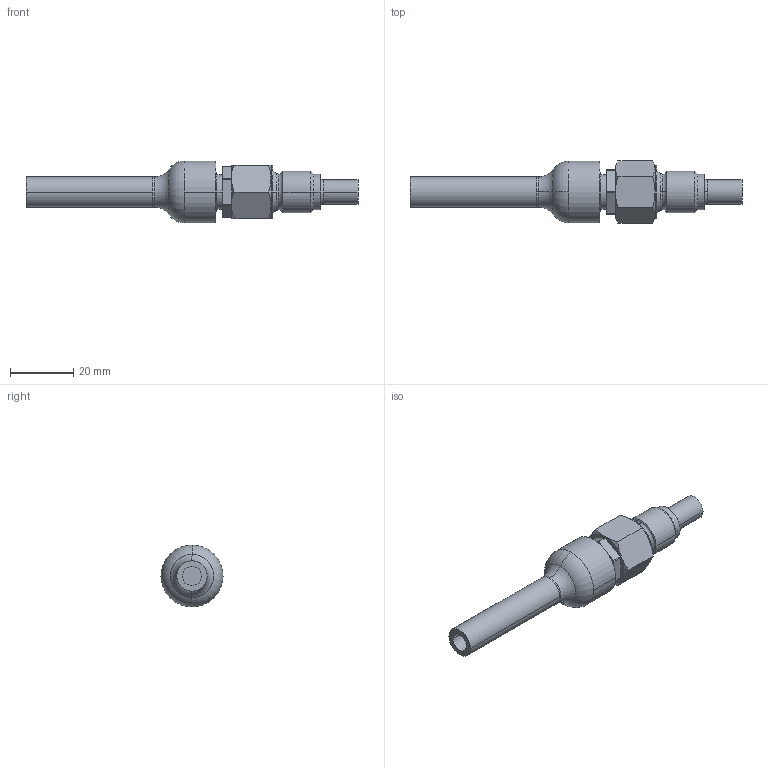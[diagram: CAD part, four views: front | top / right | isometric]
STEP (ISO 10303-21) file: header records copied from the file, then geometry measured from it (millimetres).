
FILE_DESCRIPTION( ( '' ), '1' );
FILE_NAME( '//partserver002.servicenet/client_exchange/iodir/jobs/output/wkb6682513_no0/STEP/sf221a_2_03.stp', '2007-03-29T08:22:28', ( '' ), ( '' ), ' ', ' ', ' ' );
FILE_SCHEMA( ( 'CONFIG_CONTROL_DESIGN' ) );
Length unit declared in the file: millimetre
Products named in the file (1): 1
Bounding box: 105 x 19.63 x 19.6 mm (x, y, z)
Volume: 12608.2 mm3; surface area: 6079.3 mm2
Topology: 1 solids, 1 shells, 83 faces, 190 edges, 118 vertices
Faces by surface type: cylinder 26, plane 23, cone 22, torus 12
Entity records: 2382 total; most frequent: CARTESIAN_POINT 440, DIRECTION 440, ORIENTED_EDGE 380, AXIS2_PLACEMENT_3D 190, EDGE_CURVE 190, VERTEX_POINT 118, CIRCLE 106, EDGE_LOOP 92
